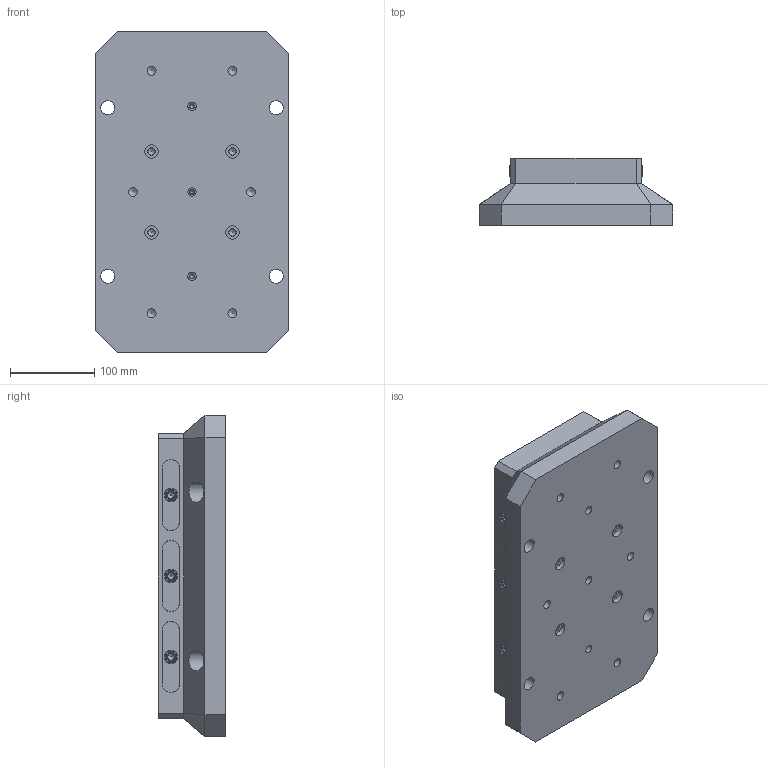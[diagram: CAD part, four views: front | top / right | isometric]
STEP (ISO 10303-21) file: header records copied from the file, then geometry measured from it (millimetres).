
FILE_DESCRIPTION (( 'STEP AP214' ), '1' );
FILE_NAME ('R96A-3915_WEBSITE.STEP', '2025-08-11T11:21:03', ( '' ), ( '' ), 'SwSTEP 2.0', 'SolidWorks 2025', '' );
FILE_SCHEMA (( 'AUTOMOTIVE_DESIGN' ));
Length unit declared in the file: millimetre
Products named in the file (13): D_RL96A-3613S1_WEBSITE; 9750K730_PLASTIC ROUND PLUG_WEBSITE_9750K73; D_RL96-2R_WEBSITE; D_RL96-2L_WEBSITE; 9452K121-Truck-O-Ring_WEBSITE; D_RL96-3_WEBSITE; D_R96-613VCU5_WEBSITE; D_RL96-1613S1A_WEBSITE; R96A-3915_WEBSITE; D_HW27X20.DB_WEBSITE; 9452K183-Base-O-Ring_WEBSITE; D_SB54_WEBSITE_FINISHED PART; D_RL96-MULTI-ASSY_WEBSITE
Assembly tree (41 placements, depth 4):
  9750K730_PLASTIC ROUND PLUG_WEBSITE_9750K73
  R96A-3915_WEBSITE
    D_R96-613VCU5_WEBSITE
    D_RL96A-3613S1_WEBSITE
      D_RL96-1613S1A_WEBSITE
      D_RL96-MULTI-ASSY_WEBSITE
        D_RL96-2L_WEBSITE  x3
        D_RL96-2R_WEBSITE  x3
        D_RL96-3_WEBSITE  x3
        D_HW27X20.DB_WEBSITE  x8
        D_SB54_WEBSITE_FINISHED PART  x6
    9452K183-Base-O-Ring_WEBSITE  x8
    9452K121-Truck-O-Ring_WEBSITE  x6
Bounding box: 230 x 80 x 381 mm (x, y, z)
Volume: 5151912 mm3; surface area: 544917.3 mm2
Topology: 45 solids, 45 shells, 850 faces, 1913 edges, 1197 vertices
Faces by surface type: plane 497, cylinder 262, cone 63, torus 22, bspline 6
Full cylindrical faces by diameter (mm): 0.127 x6, 2.5 x6, 3.3 x8, 4 x6, 4.7 x6, 5 x11, 5.182 x14, 6 x3, 8.026 x1, 8.204 x6, 8.5 x4, 9 x6, 9.525 x6, 10.02 x2, 10.025 x5, 10.2 x4, 10.716 x6, 10.795 x3, 11.938 x8, 12.573 x8, 13.492 x4, 14 x6, 15.748 x6, 16.02 x4, 16.667 x4, 19.05 x6, 19.101 x8, 19.99 x3, 20.015 x8, 20.035 x8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
Entity records: 15812 total; most frequent: CARTESIAN_POINT 4982, DIRECTION 2068, ORIENTED_EDGE 1556, AXIS2_PLACEMENT_3D 876, EDGE_CURVE 778, EDGE_LOOP 766, VERTEX_POINT 594, FACE_OUTER_BOUND 586
